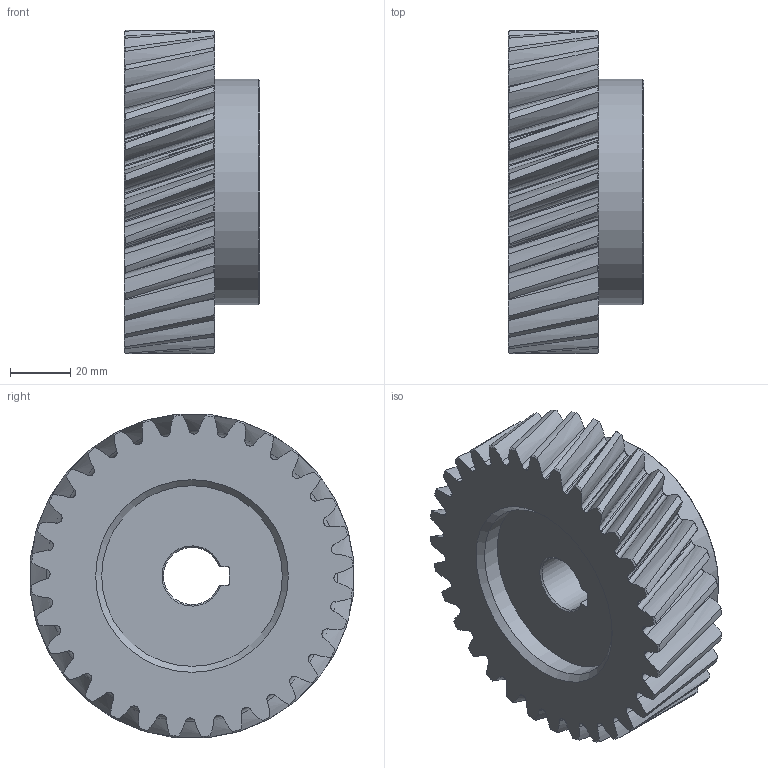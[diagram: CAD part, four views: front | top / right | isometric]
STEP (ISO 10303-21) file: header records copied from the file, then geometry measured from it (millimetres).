
FILE_DESCRIPTION(('STEP AP214'), '1');
FILE_NAME('GH3-T32D19 - Øåñòåðíÿ', '2018-02-16T11:41:45', (''), (''), 'ASCON STEP Converter 1.3', 'ASCON Math Kernel', '');
FILE_SCHEMA(('AUTOMOTIVE_DESIGN { 1 0 10303 214 3 1 1}'));
Length unit declared in the file: millimetre
Products named in the file (1): GH3-T32D19
Bounding box: 45 x 107.62 x 107.62 mm (x, y, z)
Volume: 274670.8 mm3; surface area: 41387.9 mm2
Topology: 1 solids, 1 shells, 272 faces, 803 edges, 536 vertices
Faces by surface type: bspline 128, cylinder 69, cone 68, plane 7
Full cylindrical faces by diameter (mm): 60 x1, 75 x1
Entity records: 18279 total; most frequent: CARTESIAN_POINT 10015, ORIENTED_EDGE 1596, EDGE_CURVE 798, DIRECTION 714, B_SPLINE_CURVE_WITH_KNOTS 581, VERTEX_POINT 534, AXIS2_PLACEMENT_3D 351, EDGE_LOOP 280
